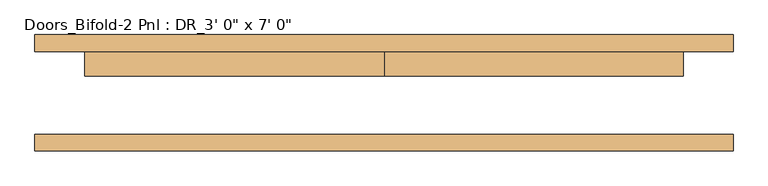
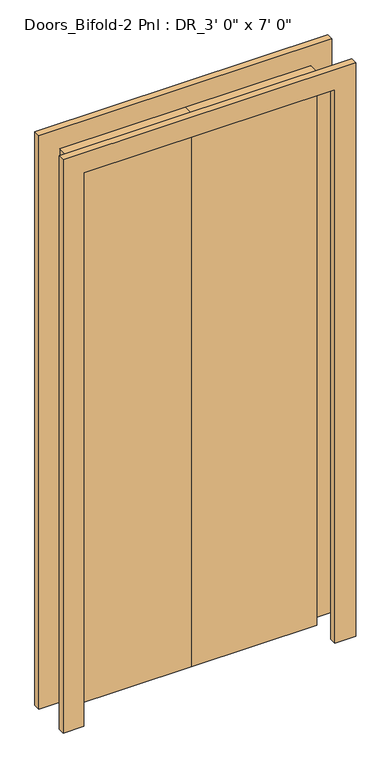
"""IFC4 building model written with IfcOpenShell, lengths in millimetres: door geometry."""

import ifcopenshell
import ifcopenshell.guid

model = None  # the IFC model being written
_history = None  # IfcOwnerHistory: only IFC2X3 demands one
_inside = {}  # id of a spatial element -> (the spatial element, [elements in it])
_under = {}  # id of a project, library or spatial element -> (it, [spatial elements below it])
_declared = {}  # id of a project -> (the project, [libraries it declares])
_typed = {}  # id of a type object -> (the type object, [elements of that type])
_made_of = {}  # id of a material, layer set ... -> (it, [elements and type objects made of it])


def new_model(schema):
    """Start an empty IFC model of exactly this schema.

    Asked for "IFC4X3", IfcOpenShell would pick the latest addendum, in which some entities
    have other attributes; the version numbers below select the first issue.
    IFC2X3 requires an IfcOwnerHistory on every rooted entity: one is made here for all.
    """
    global model, _history
    if schema == "IFC4X3":
        model = ifcopenshell.file(schema_version=(4, 3, 0, 0))
    else:
        model = ifcopenshell.file(schema=schema)
    _inside.clear()
    _under.clear()
    _declared.clear()
    _typed.clear()
    _made_of.clear()
    _history = None
    if model.schema == "IFC2X3":
        org = make("IfcOrganization", Name="unknown")
        user = make(
            "IfcPersonAndOrganization",
            ThePerson=make("IfcPerson", FamilyName="unknown"),
            TheOrganization=org,
        )
        app = make(
            "IfcApplication",
            ApplicationDeveloper=org,
            Version="unknown",
            ApplicationFullName="unknown",
            ApplicationIdentifier="unknown",
        )
        _history = make(
            "IfcOwnerHistory",
            OwningUser=user,
            OwningApplication=app,
            ChangeAction="ADDED",
            CreationDate=0,
        )
    return model


def make(cls, **values):
    """One entity of the class cls with the attributes given. An attribute that is None is left unset."""
    return model.create_entity(
        cls, **{name: value for name, value in values.items() if value is not None}
    )


def rooted(cls, **values):
    """An entity with a GlobalId (a new one), such as an element, a storey or a relation."""
    return make(cls, GlobalId=ifcopenshell.guid.new(), OwnerHistory=_history, **values)


def si_unit(unit_type, name, prefix=None):
    """IfcSIUnit, for example si_unit("LENGTHUNIT", "METRE", prefix="MILLI")."""
    return make("IfcSIUnit", UnitType=unit_type, Prefix=prefix, Name=name)


def assignment(units):
    """IfcUnitAssignment: the units of a project."""
    return None if units is None else make("IfcUnitAssignment", Units=units)


def point(xyz):
    """IfcCartesianPoint."""
    return None if xyz is None else make("IfcCartesianPoint", Coordinates=xyz)


def direction(xyz):
    """IfcDirection."""
    return None if xyz is None else make("IfcDirection", DirectionRatios=xyz)


def frame(location, z_axis=None, x_axis=None):
    """IfcAxis2Placement3D, a coordinate frame: its origin and axes. An axis left out is left unset."""
    return make(
        "IfcAxis2Placement3D",
        Location=point(location),
        Axis=direction(z_axis),
        RefDirection=direction(x_axis),
    )


def origin():
    """The frame at (0, 0, 0) with its axes left unset."""
    return frame((0.0, 0.0, 0.0))


def origin_with_axes():
    """The frame at (0, 0, 0) with the z axis (0, 0, 1) and the x axis (1, 0, 0) written out."""
    return frame((0.0, 0.0, 0.0), z_axis=(0.0, 0.0, 1.0), x_axis=(1.0, 0.0, 0.0))


def place(relative_to, where):
    """IfcLocalPlacement: puts the frame where relative to a parent placement (None: the world)."""
    return make(
        "IfcLocalPlacement", PlacementRelTo=relative_to, RelativePlacement=where
    )


def context(
    kind, dimensions, precision=None, world=None, true_north=None, identifier=None
):
    """IfcGeometricRepresentationContext, for example the 3D "Model" context."""
    return make(
        "IfcGeometricRepresentationContext",
        ContextIdentifier=identifier,
        ContextType=kind,
        CoordinateSpaceDimension=dimensions,
        Precision=precision,
        WorldCoordinateSystem=world,
        TrueNorth=true_north,
    )


def project(units=None, contexts=None):
    """IfcProject with its units and contexts."""
    return rooted(
        "IfcProject",
        Name="project",
        RepresentationContexts=contexts,
        UnitsInContext=assignment(units),
    )


def spatial(cls, under=None, at=None, **own):
    """A site, building, storey or space (cls), placed at a placement, below another one or the project."""
    s = rooted(cls, ObjectPlacement=at, **own)
    if under is not None:
        _under.setdefault(under.id(), (under, []))[1].append(s)
    return s


def polyline(points):
    """IfcPolyline through the points."""
    return make("IfcPolyline", Points=[point(p) for p in points])


def outline(outer, holes=None, kind="AREA"):
    """IfcArbitraryClosedProfileDef: a profile drawn as a closed curve; with holes, ...WithVoids."""
    if holes is None:
        return make("IfcArbitraryClosedProfileDef", ProfileType=kind, OuterCurve=outer)
    return make(
        "IfcArbitraryProfileDefWithVoids",
        ProfileType=kind,
        OuterCurve=outer,
        InnerCurves=holes,
    )


def extrude(swept, where, along, depth):
    """IfcExtrudedAreaSolid: the profile swept, set in the frame where, extruded along a direction by depth."""
    return make(
        "IfcExtrudedAreaSolid",
        SweptArea=swept,
        Position=where,
        ExtrudedDirection=direction(along),
        Depth=depth,
    )


def shape(context_of_items, identifier, shape_type, items):
    """IfcShapeRepresentation: the items that make up one representation, for example the "Body"."""
    return make(
        "IfcShapeRepresentation",
        ContextOfItems=context_of_items,
        RepresentationIdentifier=identifier,
        RepresentationType=shape_type,
        Items=items,
    )


def source(mapping_origin, context_of_items, identifier, shape_type, items):
    """IfcRepresentationMap: a shape defined once, which mapped items show again and again."""
    return make(
        "IfcRepresentationMap",
        MappingOrigin=mapping_origin,
        MappedRepresentation=shape(context_of_items, identifier, shape_type, items),
    )


def transform(
    local_origin,
    x_axis=None,
    y_axis=None,
    z_axis=None,
    scale=None,
    scale2=None,
    scale3=None,
    uniform=True,
):
    """IfcCartesianTransformationOperator3D, or its non-uniform kind. x_axis, y_axis, z_axis: its Axis1, 2, 3."""
    if uniform:
        return make(
            "IfcCartesianTransformationOperator3D",
            Axis1=direction(x_axis),
            Axis2=direction(y_axis),
            LocalOrigin=point(local_origin),
            Scale=scale,
            Axis3=direction(z_axis),
        )
    return make(
        "IfcCartesianTransformationOperator3DnonUniform",
        Axis1=direction(x_axis),
        Axis2=direction(y_axis),
        LocalOrigin=point(local_origin),
        Scale=scale,
        Axis3=direction(z_axis),
        Scale2=scale2,
        Scale3=scale3,
    )


def mapped(mapping_source, mapping_target):
    """IfcMappedItem: shows the shape of a source again, moved by a transform."""
    return make(
        "IfcMappedItem", MappingSource=mapping_source, MappingTarget=mapping_target
    )


def made_of(thing, what):
    """Note that an element or type object is made of a material, layer set ...; save() writes the relation."""
    if what is not None:
        _made_of.setdefault(what.id(), (what, []))[1].append(thing)
    return thing


def element(
    cls,
    number,
    at=None,
    inside=None,
    cuts=None,
    type_object=None,
    material=None,
    context=None,
    identifier="Body",
    shape_type=None,
    held_by="IfcProductDefinitionShape",
    body=None,
    shapes=None,
    **own,
):
    """One element of the class cls, such as IfcWall. Its Tag is "e" and its number.

    at: its placement. inside: the storey or other place that contains it. cuts: it is an
    opening in that element (IfcRelVoidsElement). A single representation is given by context,
    identifier, shape_type and body (its items); several are given by shapes. held_by: the class
    of the entity that holds the representations. save() writes the other relations.
    """
    e = rooted(cls, Tag="e%d" % number, ObjectPlacement=at, **own)
    if body is not None:
        shapes = [shape(context, identifier, shape_type, body)]
    if shapes is not None:
        e.Representation = make(held_by, Representations=shapes)
    if inside is not None:
        _inside.setdefault(inside.id(), (inside, []))[1].append(e)
    if cuts is not None:
        rooted(
            "IfcRelVoidsElement", RelatingBuildingElement=cuts, RelatedOpeningElement=e
        )
    if type_object is not None:
        _typed.setdefault(type_object.id(), (type_object, []))[1].append(e)
    return made_of(e, material)


def aggregate(whole, parts):
    """IfcRelAggregates: a whole, such as a stair, and the parts it consists of."""
    return rooted("IfcRelAggregates", RelatingObject=whole, RelatedObjects=parts)


def save(model, path):
    """Write the relations noted so far, then the file.

    IfcRelAggregates (storeys below a building ...), IfcRelContainedInSpatialStructure (elements
    in a storey), IfcRelDefinesByType, IfcRelAssociatesMaterial and IfcRelDeclares: one each for
    every whole, place, type object, material and project.
    """
    for whole, parts in _under.values():
        aggregate(whole, parts)
    for where, things in _inside.values():
        rooted(
            "IfcRelContainedInSpatialStructure",
            RelatedElements=things,
            RelatingStructure=where,
        )
    for kind, things in _typed.values():
        rooted("IfcRelDefinesByType", RelatedObjects=things, RelatingType=kind)
    for what, things in _made_of.values():
        rooted("IfcRelAssociatesMaterial", RelatedObjects=things, RelatingMaterial=what)
    for by, libraries in _declared.values():
        rooted("IfcRelDeclares", RelatingContext=by, RelatedDefinitions=libraries)
    model.write(path)


def door_61f29216(model_context):
    return source(origin(), model_context, "Body", "SweptSolid", [
        extrude(outline(polyline([(0.0, 25.4), (-457.2, 25.4), (-457.2, 63.5), (0.0, 63.5), (0.0, 25.4)])), origin_with_axes(), (0.0, 0.0, 1.0), 2133.6),
        extrude(outline(polyline([(2209.8, -533.4), (0.0, -533.4), (0.0, -457.2), (2133.6, -457.2), (2133.6, 457.2), (0.0, 457.2), (0.0, 533.4), (2209.8, 533.4), (2209.8, -533.4)])), frame((0.0, 63.5, 0.0), z_axis=(0.0, 1.0, 0.0), x_axis=(0.0, 0.0, 1.0)), (0.0, 0.0, 1.0), 25.4),
        extrude(outline(polyline([(2209.8, 533.4), (2209.8, -533.4), (0.0, -533.4), (0.0, -457.2), (2133.6, -457.2), (2133.6, 457.2), (0.0, 457.2), (0.0, 533.4), (2209.8, 533.4)])), frame((0.0, -88.9, 0.0), z_axis=(0.0, 1.0, 0.0), x_axis=(0.0, 0.0, 1.0)), (0.0, 0.0, 1.0), 25.4),
        extrude(outline(polyline([(457.2, 25.4), (0.0, 25.4), (0.0, 63.5), (457.2, 63.5), (457.2, 25.4)])), origin_with_axes(), (0.0, 0.0, 1.0), 2133.6),
    ])


if __name__ == "__main__":
    model = new_model("IFC4")
    model_context = context("Model", 3, world=origin())
    ifc_project = project(units=[si_unit("LENGTHUNIT", "METRE", prefix="MILLI")], contexts=[model_context])
    site = spatial("IfcSite", under=ifc_project)
    building = spatial("IfcBuilding", under=site)
    placement = place(None, origin())
    door_shape = door_61f29216(model_context)
    element("IfcDoor", 1, ObjectType="Doors_Bifold-2 Pnl : DR_3' 0\" x 7' 0\"", at=placement, inside=building, context=model_context, shape_type="MappedRepresentation", body=[
        mapped(door_shape, transform((0.0, 0.0, 0.0), x_axis=(1.0, 0.0, 0.0), y_axis=(0.0, 1.0, 0.0), z_axis=(0.0, 0.0, 1.0))),
    ])
    save(model, "model.ifc")
